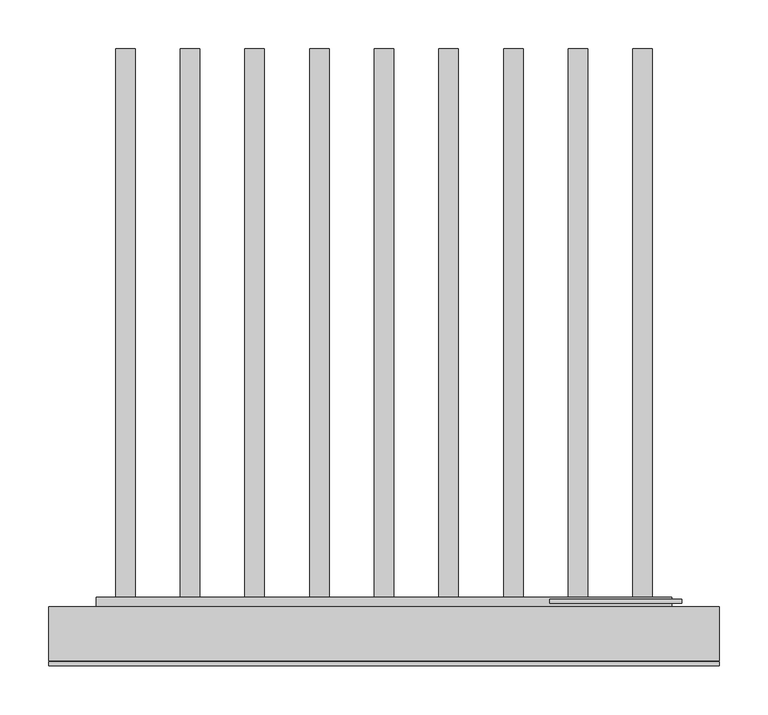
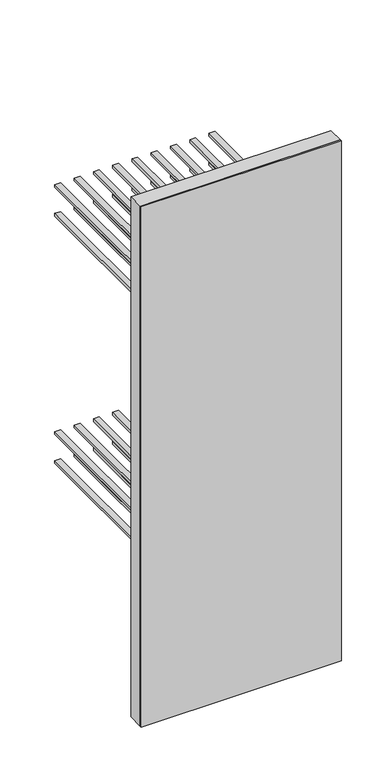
"""IFC4 building model written with IfcOpenShell, lengths in millimetres: proxy geometry, 10423090_OER_KWT6834SGS : 36683400_OER_10423090_KWT6834SGS."""

from ifc_helpers import new_model, si_unit, frame, origin, place, context, project, spatial, polyline, outline, extrude, source, transform, mapped, element, save


def specialty_equipment_9fdfd27e(model_context):
    return source(origin(), model_context, "Body", "SweptSolid", [
        extrude(outline(polyline([(10.0, 67.0438353), (-10.0, 67.0438353), (-10.0, 632.0), (10.0, 632.0), (10.0, 67.0438353)])), frame((0.0, 0.0, 1583.0), z_axis=(0.0, 0.0, 1.0), x_axis=(1.0, 0.0, 0.0)), (0.0, 0.0, 1.0), 10.0),
        extrude(outline(polyline([(-56.25, 67.0438353), (-76.25, 67.0438353), (-76.25, 632.0), (-56.25, 632.0), (-56.25, 67.0438353)])), frame((0.0, 0.0, 1583.0), z_axis=(0.0, 0.0, 1.0), x_axis=(1.0, 0.0, 0.0)), (0.0, 0.0, 1.0), 10.0),
        extrude(outline(polyline([(-122.5, 67.0438353), (-142.5, 67.0438353), (-142.5, 632.0), (-122.5, 632.0), (-122.5, 67.0438353)])), frame((0.0, 0.0, 1583.0), z_axis=(0.0, 0.0, 1.0), x_axis=(1.0, 0.0, 0.0)), (0.0, 0.0, 1.0), 10.0),
        extrude(outline(polyline([(-188.75, 67.0438353), (-208.75, 67.0438353), (-208.75, 632.0), (-188.75, 632.0), (-188.75, 67.0438353)])), frame((0.0, 0.0, 1583.0), z_axis=(0.0, 0.0, 1.0), x_axis=(1.0, 0.0, 0.0)), (0.0, 0.0, 1.0), 10.0),
        extrude(outline(polyline([(-255.0, 67.0438353), (-275.0, 67.0438353), (-275.0, 632.0), (-255.0, 632.0), (-255.0, 67.0438353)])), frame((0.0, 0.0, 1583.0), z_axis=(0.0, 0.0, 1.0), x_axis=(1.0, 0.0, 0.0)), (0.0, 0.0, 1.0), 10.0),
        extrude(outline(polyline([(76.25, 67.0438353), (56.25, 67.0438353), (56.25, 632.0), (76.25, 632.0), (76.25, 67.0438353)])), frame((0.0, 0.0, 1583.0), z_axis=(0.0, 0.0, 1.0), x_axis=(1.0, 0.0, 0.0)), (0.0, 0.0, 1.0), 10.0),
        extrude(outline(polyline([(142.5, 67.0438353), (122.5, 67.0438353), (122.5, 632.0), (142.5, 632.0), (142.5, 67.0438353)])), frame((0.0, 0.0, 1583.0), z_axis=(0.0, 0.0, 1.0), x_axis=(1.0, 0.0, 0.0)), (0.0, 0.0, 1.0), 10.0),
        extrude(outline(polyline([(208.75, 67.0438353), (188.75, 67.0438353), (188.75, 632.0), (208.75, 632.0), (208.75, 67.0438353)])), frame((0.0, 0.0, 1583.0), z_axis=(0.0, 0.0, 1.0), x_axis=(1.0, 0.0, 0.0)), (0.0, 0.0, 1.0), 10.0),
        extrude(outline(polyline([(275.0, 67.0438353), (255.0, 67.0438353), (255.0, 632.0), (275.0, 632.0), (275.0, 67.0438353)])), frame((0.0, 0.0, 1583.0), z_axis=(0.0, 0.0, 1.0), x_axis=(1.0, 0.0, 0.0)), (0.0, 0.0, 1.0), 10.0),
        extrude(outline(polyline([(10.0, 67.0438353), (-10.0, 67.0438353), (-10.0, 632.0), (10.0, 632.0), (10.0, 67.0438353)])), frame((0.0, 0.0, 1478.0), z_axis=(0.0, 0.0, 1.0), x_axis=(1.0, 0.0, 0.0)), (0.0, 0.0, 1.0), 10.0),
        extrude(outline(polyline([(-56.25, 67.0438353), (-76.25, 67.0438353), (-76.25, 632.0), (-56.25, 632.0), (-56.25, 67.0438353)])), frame((0.0, 0.0, 1478.0), z_axis=(0.0, 0.0, 1.0), x_axis=(1.0, 0.0, 0.0)), (0.0, 0.0, 1.0), 10.0),
        extrude(outline(polyline([(-122.5, 67.0438353), (-142.5, 67.0438353), (-142.5, 632.0), (-122.5, 632.0), (-122.5, 67.0438353)])), frame((0.0, 0.0, 1478.0), z_axis=(0.0, 0.0, 1.0), x_axis=(1.0, 0.0, 0.0)), (0.0, 0.0, 1.0), 10.0),
        extrude(outline(polyline([(-188.75, 67.0438353), (-208.75, 67.0438353), (-208.75, 632.0), (-188.75, 632.0), (-188.75, 67.0438353)])), frame((0.0, 0.0, 1478.0), z_axis=(0.0, 0.0, 1.0), x_axis=(1.0, 0.0, 0.0)), (0.0, 0.0, 1.0), 10.0),
        extrude(outline(polyline([(-255.0, 67.0438353), (-275.0, 67.0438353), (-275.0, 632.0), (-255.0, 632.0), (-255.0, 67.0438353)])), frame((0.0, 0.0, 1478.0), z_axis=(0.0, 0.0, 1.0), x_axis=(1.0, 0.0, 0.0)), (0.0, 0.0, 1.0), 10.0),
        extrude(outline(polyline([(76.25, 67.0438353), (56.25, 67.0438353), (56.25, 632.0), (76.25, 632.0), (76.25, 67.0438353)])), frame((0.0, 0.0, 1478.0), z_axis=(0.0, 0.0, 1.0), x_axis=(1.0, 0.0, 0.0)), (0.0, 0.0, 1.0), 10.0),
        extrude(outline(polyline([(142.5, 67.0438353), (122.5, 67.0438353), (122.5, 632.0), (142.5, 632.0), (142.5, 67.0438353)])), frame((0.0, 0.0, 1478.0), z_axis=(0.0, 0.0, 1.0), x_axis=(1.0, 0.0, 0.0)), (0.0, 0.0, 1.0), 10.0),
        extrude(outline(polyline([(208.75, 67.0438353), (188.75, 67.0438353), (188.75, 632.0), (208.75, 632.0), (208.75, 67.0438353)])), frame((0.0, 0.0, 1478.0), z_axis=(0.0, 0.0, 1.0), x_axis=(1.0, 0.0, 0.0)), (0.0, 0.0, 1.0), 10.0),
        extrude(outline(polyline([(275.0, 67.0438353), (255.0, 67.0438353), (255.0, 632.0), (275.0, 632.0), (275.0, 67.0438353)])), frame((0.0, 0.0, 1478.0), z_axis=(0.0, 0.0, 1.0), x_axis=(1.0, 0.0, 0.0)), (0.0, 0.0, 1.0), 10.0),
        extrude(outline(polyline([(10.0, 67.0438353), (-10.0, 67.0438353), (-10.0, 632.0), (10.0, 632.0), (10.0, 67.0438353)])), frame((0.0, 0.0, 687.0), z_axis=(0.0, 0.0, 1.0), x_axis=(1.0, 0.0, 0.0)), (0.0, 0.0, 1.0), 10.0),
        extrude(outline(polyline([(-56.25, 67.0438353), (-76.25, 67.0438353), (-76.25, 632.0), (-56.25, 632.0), (-56.25, 67.0438353)])), frame((0.0, 0.0, 687.0), z_axis=(0.0, 0.0, 1.0), x_axis=(1.0, 0.0, 0.0)), (0.0, 0.0, 1.0), 10.0),
        extrude(outline(polyline([(-122.5, 67.0438353), (-142.5, 67.0438353), (-142.5, 632.0), (-122.5, 632.0), (-122.5, 67.0438353)])), frame((0.0, 0.0, 687.0), z_axis=(0.0, 0.0, 1.0), x_axis=(1.0, 0.0, 0.0)), (0.0, 0.0, 1.0), 10.0),
        extrude(outline(polyline([(-188.75, 67.0438353), (-208.75, 67.0438353), (-208.75, 632.0), (-188.75, 632.0), (-188.75, 67.0438353)])), frame((0.0, 0.0, 687.0), z_axis=(0.0, 0.0, 1.0), x_axis=(1.0, 0.0, 0.0)), (0.0, 0.0, 1.0), 10.0),
        extrude(outline(polyline([(-255.0, 67.0438353), (-275.0, 67.0438353), (-275.0, 632.0), (-255.0, 632.0), (-255.0, 67.0438353)])), frame((0.0, 0.0, 687.0), z_axis=(0.0, 0.0, 1.0), x_axis=(1.0, 0.0, 0.0)), (0.0, 0.0, 1.0), 10.0),
        extrude(outline(polyline([(76.25, 67.0438353), (56.25, 67.0438353), (56.25, 632.0), (76.25, 632.0), (76.25, 67.0438353)])), frame((0.0, 0.0, 687.0), z_axis=(0.0, 0.0, 1.0), x_axis=(1.0, 0.0, 0.0)), (0.0, 0.0, 1.0), 10.0),
        extrude(outline(polyline([(142.5, 67.0438353), (122.5, 67.0438353), (122.5, 632.0), (142.5, 632.0), (142.5, 67.0438353)])), frame((0.0, 0.0, 687.0), z_axis=(0.0, 0.0, 1.0), x_axis=(1.0, 0.0, 0.0)), (0.0, 0.0, 1.0), 10.0),
        extrude(outline(polyline([(208.75, 67.0438353), (188.75, 67.0438353), (188.75, 632.0), (208.75, 632.0), (208.75, 67.0438353)])), frame((0.0, 0.0, 687.0), z_axis=(0.0, 0.0, 1.0), x_axis=(1.0, 0.0, 0.0)), (0.0, 0.0, 1.0), 10.0),
        extrude(outline(polyline([(275.0, 67.0438353), (255.0, 67.0438353), (255.0, 632.0), (275.0, 632.0), (275.0, 67.0438353)])), frame((0.0, 0.0, 687.0), z_axis=(0.0, 0.0, 1.0), x_axis=(1.0, 0.0, 0.0)), (0.0, 0.0, 1.0), 10.0),
        extrude(outline(polyline([(10.0, 67.0438353), (-10.0, 67.0438353), (-10.0, 632.0), (10.0, 632.0), (10.0, 67.0438353)])), frame((0.0, 0.0, 582.0), z_axis=(0.0, 0.0, 1.0), x_axis=(1.0, 0.0, 0.0)), (0.0, 0.0, 1.0), 10.0),
        extrude(outline(polyline([(-56.25, 67.0438353), (-76.25, 67.0438353), (-76.25, 632.0), (-56.25, 632.0), (-56.25, 67.0438353)])), frame((0.0, 0.0, 582.0), z_axis=(0.0, 0.0, 1.0), x_axis=(1.0, 0.0, 0.0)), (0.0, 0.0, 1.0), 10.0),
        extrude(outline(polyline([(-122.5, 67.0438353), (-142.5, 67.0438353), (-142.5, 632.0), (-122.5, 632.0), (-122.5, 67.0438353)])), frame((0.0, 0.0, 582.0), z_axis=(0.0, 0.0, 1.0), x_axis=(1.0, 0.0, 0.0)), (0.0, 0.0, 1.0), 10.0),
        extrude(outline(polyline([(-188.75, 67.0438353), (-208.75, 67.0438353), (-208.75, 632.0), (-188.75, 632.0), (-188.75, 67.0438353)])), frame((0.0, 0.0, 582.0), z_axis=(0.0, 0.0, 1.0), x_axis=(1.0, 0.0, 0.0)), (0.0, 0.0, 1.0), 10.0),
        extrude(outline(polyline([(-255.0, 67.0438353), (-275.0, 67.0438353), (-275.0, 632.0), (-255.0, 632.0), (-255.0, 67.0438353)])), frame((0.0, 0.0, 582.0), z_axis=(0.0, 0.0, 1.0), x_axis=(1.0, 0.0, 0.0)), (0.0, 0.0, 1.0), 10.0),
        extrude(outline(polyline([(76.25, 67.0438353), (56.25, 67.0438353), (56.25, 632.0), (76.25, 632.0), (76.25, 67.0438353)])), frame((0.0, 0.0, 582.0), z_axis=(0.0, 0.0, 1.0), x_axis=(1.0, 0.0, 0.0)), (0.0, 0.0, 1.0), 10.0),
        extrude(outline(polyline([(142.5, 67.0438353), (122.5, 67.0438353), (122.5, 632.0), (142.5, 632.0), (142.5, 67.0438353)])), frame((0.0, 0.0, 582.0), z_axis=(0.0, 0.0, 1.0), x_axis=(1.0, 0.0, 0.0)), (0.0, 0.0, 1.0), 10.0),
        extrude(outline(polyline([(208.75, 67.0438353), (188.75, 67.0438353), (188.75, 632.0), (208.75, 632.0), (208.75, 67.0438353)])), frame((0.0, 0.0, 582.0), z_axis=(0.0, 0.0, 1.0), x_axis=(1.0, 0.0, 0.0)), (0.0, 0.0, 1.0), 10.0),
        extrude(outline(polyline([(275.0, 67.0438353), (255.0, 67.0438353), (255.0, 632.0), (275.0, 632.0), (275.0, 67.0438353)])), frame((0.0, 0.0, 582.0), z_axis=(0.0, 0.0, 1.0), x_axis=(1.0, 0.0, 0.0)), (0.0, 0.0, 1.0), 10.0),
        extrude(outline(polyline([(70.0, 1601.3781397), (70.0, 1575.0), (60.0, 1575.0), (60.0, 1578.0), (60.8925608, 1578.0), (60.8925608, 1597.7661331), (60.0, 1597.7661331), (60.0, 1601.3781397), (70.0, 1601.3781397)])), frame((-295.0, 0.0, 0.0), z_axis=(1.0, 0.0, 0.0), x_axis=(0.0, 1.0, 0.0)), (0.0, 0.0, 1.0), 590.0),
        extrude(outline(polyline([(70.0, 1496.3781397), (70.0, 1470.0), (60.0, 1470.0), (60.0, 1473.0), (60.8925608, 1473.0), (60.8925608, 1492.7661331), (60.0, 1492.7661331), (60.0, 1496.3781397), (70.0, 1496.3781397)])), frame((-295.0, 0.0, 0.0), z_axis=(1.0, 0.0, 0.0), x_axis=(0.0, 1.0, 0.0)), (0.0, 0.0, 1.0), 590.0),
        extrude(outline(polyline([(70.0, 705.3781397), (70.0, 679.0), (60.0, 679.0), (60.0, 682.0), (60.8925608, 682.0), (60.8925608, 701.7661331), (60.0, 701.7661331), (60.0, 705.3781397), (70.0, 705.3781397)])), frame((-295.0, 0.0, 0.0), z_axis=(1.0, 0.0, 0.0), x_axis=(0.0, 1.0, 0.0)), (0.0, 0.0, 1.0), 590.0),
        extrude(outline(polyline([(70.0, 600.3781397), (70.0, 574.0), (60.0, 574.0), (60.0, 577.0), (60.8925608, 577.0), (60.8925608, 596.7661331), (60.0, 596.7661331), (60.0, 600.3781397), (70.0, 600.3781397)])), frame((-295.0, 0.0, 0.0), z_axis=(1.0, 0.0, 0.0), x_axis=(0.0, 1.0, 0.0)), (0.0, 0.0, 1.0), 590.0),
        extrude(outline(polyline([(70.0, 496.3781397), (70.0, 470.0), (60.0, 470.0), (60.0, 473.0), (60.8925608, 473.0), (60.8925608, 492.7661331), (60.0, 492.7661331), (60.0, 496.3781397), (70.0, 496.3781397)])), frame((-295.0, 0.0, 0.0), z_axis=(1.0, 0.0, 0.0), x_axis=(0.0, 1.0, 0.0)), (0.0, 0.0, 1.0), 590.0),
        extrude(outline(polyline([(70.0, 390.3781397), (70.0, 364.0), (60.0, 364.0), (60.0, 367.0), (60.8925608, 367.0), (60.8925608, 386.7661331), (60.0, 386.7661331), (60.0, 390.3781397), (70.0, 390.3781397)])), frame((-295.0, 0.0, 0.0), z_axis=(1.0, 0.0, 0.0), x_axis=(0.0, 1.0, 0.0)), (0.0, 0.0, 1.0), 590.0),
        extrude(outline(polyline([(70.0, 147.3781397), (70.0, 121.0), (60.0, 121.0), (60.0, 124.0), (60.8925608, 124.0), (60.8925608, 143.7661331), (60.0, 143.7661331), (60.0, 147.3781397), (70.0, 147.3781397)])), frame((-295.0, 0.0, 0.0), z_axis=(1.0, 0.0, 0.0), x_axis=(0.0, 1.0, 0.0)), (0.0, 0.0, 1.0), 590.0),
        extrude(outline(polyline([(33.0, 343.5), (1919.0, 343.5), (1919.0, -343.5), (33.0, -343.5), (33.0, 343.5)]), holes=[polyline([(1809.0, 300.0), (116.0, 300.0), (116.0, -300.0), (1809.0, -300.0), (1809.0, 300.0)])]), frame((0.0, 5.0, 0.0), z_axis=(0.0, 1.0, 0.0), x_axis=(0.0, 0.0, 1.0)), (0.0, 0.0, 1.0), 55.0),
        extrude(outline(polyline([(-300.0, 60.0), (300.0, 60.0), (300.0, 5.0), (-300.0, 5.0), (-300.0, 60.0)])), frame((0.0, 0.0, 116.0), z_axis=(0.0, 0.0, 1.0), x_axis=(1.0, 0.0, 0.0)), (0.0, 0.0, 1.0), 1693.0),
        extrude(outline(polyline([(170.0, 68.0), (305.0, 68.0), (305.0, 64.0), (170.0, 64.0), (170.0, 68.0)])), frame((0.0, 0.0, 1846.0), z_axis=(0.0, 0.0, 1.0), x_axis=(1.0, 0.0, 0.0)), (0.0, 0.0, 1.0), 30.0),
        extrude(outline(polyline([(170.0, 68.0), (305.0, 68.0), (305.0, 64.0), (170.0, 64.0), (170.0, 68.0)])), frame((0.0, 0.0, 11.0), z_axis=(0.0, 0.0, 1.0), x_axis=(1.0, 0.0, 0.0)), (0.0, 0.0, 1.0), 30.0),
        extrude(outline(polyline([(343.5, 0.0), (-343.5, 0.0), (-343.5, 4.0), (343.5, 4.0), (343.5, 0.0)])), frame((0.0, 0.0, 33.0), z_axis=(0.0, 0.0, 1.0), x_axis=(1.0, 0.0, 0.0)), (0.0, 0.0, 1.0), 1886.0),
        extrude(outline(polyline([(-326.4353319, 59.0), (326.4353319, 59.0), (326.4353319, 45.0), (-326.4353319, 45.0), (-326.4353319, 59.0)])), frame((0.0, 0.0, 1295.0), z_axis=(0.0, 0.0, 1.0), x_axis=(1.0, 0.0, 0.0)), (0.0, 0.0, 1.0), 12.0),
        extrude(outline(polyline([(-326.4353319, 59.0), (326.4353319, 59.0), (326.4353319, 45.0), (-326.4353319, 45.0), (-326.4353319, 59.0)])), frame((0.0, 0.0, 795.0), z_axis=(0.0, 0.0, 1.0), x_axis=(1.0, 0.0, 0.0)), (0.0, 0.0, 1.0), 12.0),
    ])


if __name__ == "__main__":
    model = new_model("IFC4")
    model_context = context("Model", 3, world=origin())
    ifc_project = project(units=[si_unit("LENGTHUNIT", "METRE", prefix="MILLI")], contexts=[model_context])
    site = spatial("IfcSite", under=ifc_project)
    building = spatial("IfcBuilding", under=site)
    placement = place(None, origin())
    specialty_equipment_shape = specialty_equipment_9fdfd27e(model_context)
    element("IfcBuildingElementProxy", 1, Name="10423090_OER_KWT6834SGS : 36683400_OER_10423090_KWT6834SGS", ObjectType="10423090_OER_KWT6834SGS : 36683400_OER_10423090_KWT6834SGS", at=placement, inside=building, context=model_context, shape_type="MappedRepresentation", body=[
        mapped(specialty_equipment_shape, transform((0.0, 0.0, 0.0), x_axis=(1.0, 0.0, 0.0), y_axis=(0.0, 1.0, 0.0), z_axis=(0.0, 0.0, 1.0))),
    ])
    save(model, "model.ifc")
